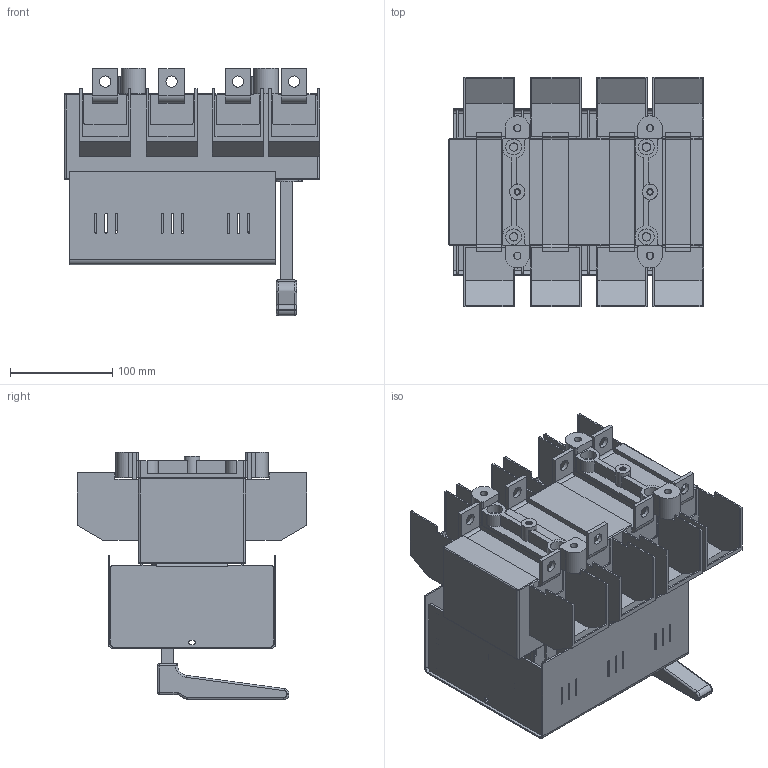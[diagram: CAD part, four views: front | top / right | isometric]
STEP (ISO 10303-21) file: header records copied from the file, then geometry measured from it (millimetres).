
FILE_DESCRIPTION(/* description */ (''),/* implementation_level */ '2;1');
FILE_NAME(/* name */ 'RAB 1 P3 NC-R z oslona zaciskow.stp',/* time_stamp */ '2021-08-19T12:52:07+02:00',/* author */ (''),/* organization */ (''),/* preprocessor_version */ 'ST-DEVELOPER v18.1',/* originating_system */ 'SIEMENS PLM Software NX 1965',/* authorisation */ '');
FILE_SCHEMA (('AUTOMOTIVE_DESIGN { 1 0 10303 214 3 1 1 1 }'));
Length unit declared in the file: millimetre
Products named in the file (1): RAB 1 P3 NC-R z oslona zaciskow
Bounding box: 250 x 225 x 242.3 mm (x, y, z)
Volume: 2640133 mm3; surface area: 612678.2 mm2
Topology: 1 solids, 1 shells, 1290 faces, 3575 edges, 2323 vertices
Faces by surface type: plane 879, cylinder 389, bspline 8, torus 8, sphere 6
Full cylindrical faces by diameter (mm): 4.8 x2, 6.2 x2, 7 x4, 8.2 x4, 11 x8, 14 x4, 15 x2, 15.5 x4
Entity records: 41151 total; most frequent: CARTESIAN_POINT 7327, ORIENTED_EDGE 7070, DIRECTION 6935, EDGE_CURVE 3535, LINE 2685, VECTOR 2685, VERTEX_POINT 2316, AXIS2_PLACEMENT_3D 2125
